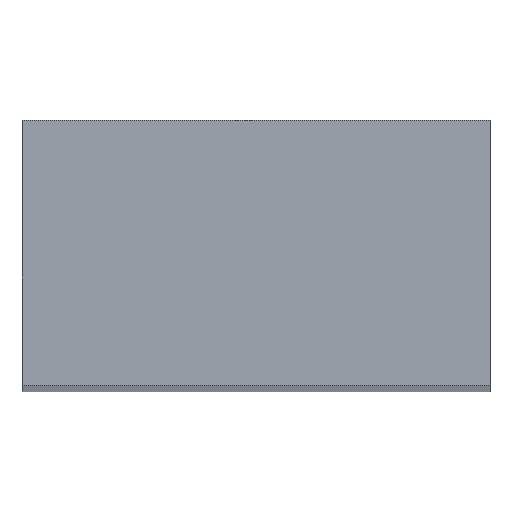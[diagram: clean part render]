
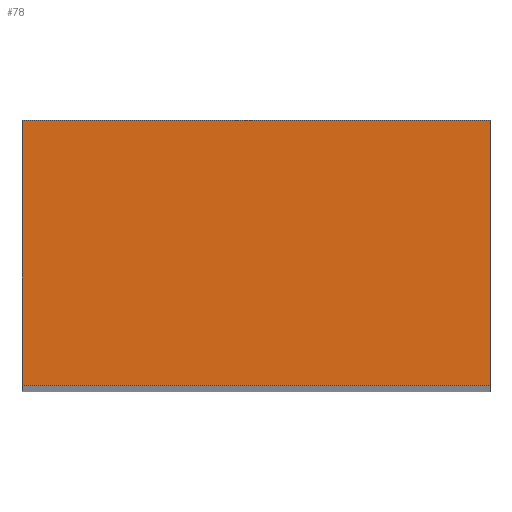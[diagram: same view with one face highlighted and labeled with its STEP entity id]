
A CAD part, top view. The second image highlights one B-rep face of the part: STEP entity #78.
In plain terms, the highlighted planar face has unit normal (0, 0, 1).
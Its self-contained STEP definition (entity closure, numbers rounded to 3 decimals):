
#1 = EDGE_CURVE ( 'NONE', #88, #71, #163, .T. ) ;
#19 = VECTOR ( 'NONE', #35, 1000. ) ;
#21 = CARTESIAN_POINT ( 'NONE',  ( 2.65, 1.5, 40. ) ) ;
#24 = DIRECTION ( 'NONE',  ( 0., -1., 0. ) ) ;
#27 = EDGE_CURVE ( 'NONE', #71, #167, #162, .T. ) ;
#29 = CARTESIAN_POINT ( 'NONE',  ( 2.65, -1.5, 40. ) ) ;
#34 = FACE_OUTER_BOUND ( 'NONE', #98, .T. ) ;
#35 = DIRECTION ( 'NONE',  ( 1., 0., 0. ) ) ;
#42 = LINE ( 'NONE', #21, #60 ) ;
#44 = CARTESIAN_POINT ( 'NONE',  ( -2.65, 1.5, 40. ) ) ;
#45 = LINE ( 'NONE', #212, #84 ) ;
#48 = CARTESIAN_POINT ( 'NONE',  ( 2.65, -1.5, 40. ) ) ;
#54 = AXIS2_PLACEMENT_3D ( 'NONE', #48, #179, #208 ) ;
#59 = ORIENTED_EDGE ( 'NONE', *, *, #130, .T. ) ;
#60 = VECTOR ( 'NONE', #70, 1000. ) ;
#70 = DIRECTION ( 'NONE',  ( 0., 1., 0. ) ) ;
#71 = VERTEX_POINT ( 'NONE', #123 ) ;
#74 = CARTESIAN_POINT ( 'NONE',  ( -2.65, -1.5, 40. ) ) ;
#78 = ADVANCED_FACE ( 'NONE', ( #34 ), #133, .T. ) ;
#84 = VECTOR ( 'NONE', #112, 1000. ) ;
#88 = VERTEX_POINT ( 'NONE', #205 ) ;
#96 = EDGE_CURVE ( 'NONE', #204, #88, #45, .T. ) ;
#98 = EDGE_LOOP ( 'NONE', ( #59, #200, #172, #116 ) ) ;
#112 = DIRECTION ( 'NONE',  ( -1., 0., 0. ) ) ;
#116 = ORIENTED_EDGE ( 'NONE', *, *, #27, .T. ) ;
#119 = CARTESIAN_POINT ( 'NONE',  ( 2.65, 1.5, 40. ) ) ;
#123 = CARTESIAN_POINT ( 'NONE',  ( -2.65, -1.5, 40. ) ) ;
#130 = EDGE_CURVE ( 'NONE', #167, #204, #42, .T. ) ;
#133 = PLANE ( 'NONE',  #54 ) ;
#141 = VECTOR ( 'NONE', #24, 1000. ) ;
#162 = LINE ( 'NONE', #74, #19 ) ;
#163 = LINE ( 'NONE', #44, #141 ) ;
#167 = VERTEX_POINT ( 'NONE', #29 ) ;
#172 = ORIENTED_EDGE ( 'NONE', *, *, #1, .T. ) ;
#179 = DIRECTION ( 'NONE',  ( 0., 0., 1. ) ) ;
#200 = ORIENTED_EDGE ( 'NONE', *, *, #96, .T. ) ;
#204 = VERTEX_POINT ( 'NONE', #119 ) ;
#205 = CARTESIAN_POINT ( 'NONE',  ( -2.65, 1.5, 40. ) ) ;
#208 = DIRECTION ( 'NONE',  ( 1., 0., 0. ) ) ;
#212 = CARTESIAN_POINT ( 'NONE',  ( 2.65, 1.5, 40. ) ) ;
